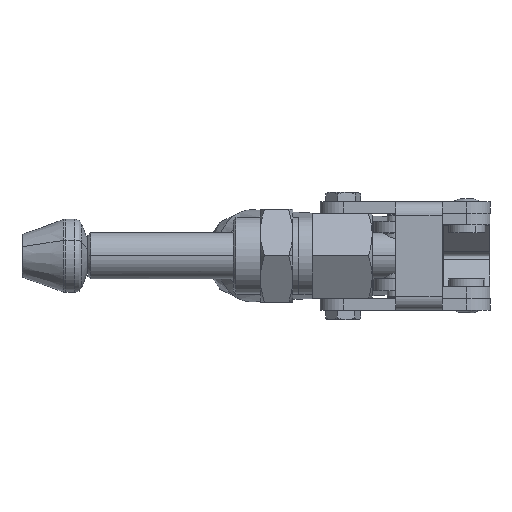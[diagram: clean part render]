
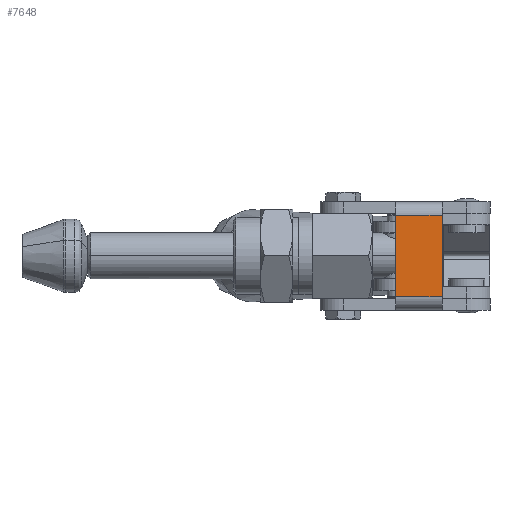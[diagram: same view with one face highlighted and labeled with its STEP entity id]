
A CAD part, front view. The second image highlights one B-rep face of the part: STEP entity #7648.
In plain terms, the highlighted planar face has unit normal (0, -1, 0).
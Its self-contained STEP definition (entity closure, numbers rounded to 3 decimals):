
#39 = DIRECTION ( 'NONE',  ( 0., 0., 1. ) ) ;
#2132 = CARTESIAN_POINT ( 'NONE',  ( 0., -9.5, 0. ) ) ;
#4958 = EDGE_CURVE ( 'NONE', #18657, #17729, #23052, .T. ) ;
#5128 = DIRECTION ( 'NONE',  ( -1., 0., 0. ) ) ;
#5493 = LINE ( 'NONE', #15193, #5799 ) ;
#5799 = VECTOR ( 'NONE', #13341, 1000. ) ;
#5920 = CARTESIAN_POINT ( 'NONE',  ( -9.6, -9.5, 0. ) ) ;
#6143 = ORIENTED_EDGE ( 'NONE', *, *, #11581, .F. ) ;
#6415 = ORIENTED_EDGE ( 'NONE', *, *, #13871, .F. ) ;
#6760 = CARTESIAN_POINT ( 'NONE',  ( 2.4, -9.5, 0. ) ) ;
#7648 = ADVANCED_FACE ( 'NONE', ( #8037 ), #16011, .F. ) ;
#8037 = FACE_OUTER_BOUND ( 'NONE', #11462, .T. ) ;
#8405 = DIRECTION ( 'NONE',  ( 0., 0., 1. ) ) ;
#9157 = VECTOR ( 'NONE', #8405, 1000. ) ;
#10607 = CARTESIAN_POINT ( 'NONE',  ( 2.4, -9.5, -24.6 ) ) ;
#10979 = ORIENTED_EDGE ( 'NONE', *, *, #4958, .F. ) ;
#11462 = EDGE_LOOP ( 'NONE', ( #6415, #10979, #6143, #16056 ) ) ;
#11581 = EDGE_CURVE ( 'NONE', #18732, #18657, #14992, .T. ) ;
#13341 = DIRECTION ( 'NONE',  ( 1., 0., 0. ) ) ;
#13571 = CARTESIAN_POINT ( 'NONE',  ( -9.6, -9.5, -3.5 ) ) ;
#13871 = EDGE_CURVE ( 'NONE', #17729, #21466, #18195, .T. ) ;
#14073 = EDGE_CURVE ( 'NONE', #21466, #18732, #5493, .T. ) ;
#14739 = DIRECTION ( 'NONE',  ( 0., 0., -1. ) ) ;
#14992 = LINE ( 'NONE', #6760, #19139 ) ;
#15193 = CARTESIAN_POINT ( 'NONE',  ( -9.6, -9.5, -3.5 ) ) ;
#15990 = VECTOR ( 'NONE', #5128, 1000. ) ;
#16011 = PLANE ( 'NONE',  #23657 ) ;
#16056 = ORIENTED_EDGE ( 'NONE', *, *, #14073, .F. ) ;
#17162 = CARTESIAN_POINT ( 'NONE',  ( 0., -9.5, -24.6 ) ) ;
#17729 = VERTEX_POINT ( 'NONE', #23379 ) ;
#18195 = LINE ( 'NONE', #5920, #9157 ) ;
#18558 = CARTESIAN_POINT ( 'NONE',  ( 2.4, -9.5, -3.5 ) ) ;
#18657 = VERTEX_POINT ( 'NONE', #10607 ) ;
#18732 = VERTEX_POINT ( 'NONE', #18558 ) ;
#19139 = VECTOR ( 'NONE', #14739, 1000. ) ;
#21466 = VERTEX_POINT ( 'NONE', #13571 ) ;
#23052 = LINE ( 'NONE', #17162, #15990 ) ;
#23379 = CARTESIAN_POINT ( 'NONE',  ( -9.6, -9.5, -24.6 ) ) ;
#23657 = AXIS2_PLACEMENT_3D ( 'NONE', #2132, #23983, #39 ) ;
#23983 = DIRECTION ( 'NONE',  ( 0., 1., 0. ) ) ;
